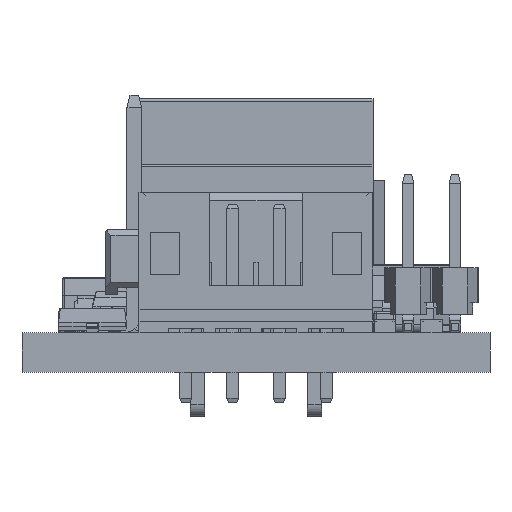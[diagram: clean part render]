
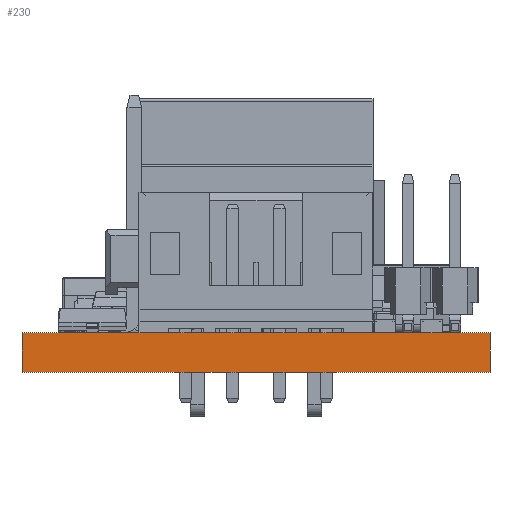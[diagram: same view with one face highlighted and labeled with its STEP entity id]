
A CAD part, front view. The second image highlights one B-rep face of the part: STEP entity #230.
In plain terms, the highlighted planar face has unit normal (0, -1, 0).
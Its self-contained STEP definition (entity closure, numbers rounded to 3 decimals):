
#132 = EDGE_CURVE('',#133,#135,#137,.T.);
#133 = VERTEX_POINT('',#134);
#134 = CARTESIAN_POINT('',(0.,0.,0.));
#135 = VERTEX_POINT('',#136);
#136 = CARTESIAN_POINT('',(0.,0.,1.691));
#137 = LINE('',#138,#139);
#138 = CARTESIAN_POINT('',(0.,0.,0.));
#139 = VECTOR('',#140,1.);
#140 = DIRECTION('',(0.,0.,1.));
#205 = VERTEX_POINT('',#206);
#206 = CARTESIAN_POINT('',(20.,0.,1.691));
#212 = EDGE_CURVE('',#213,#205,#215,.T.);
#213 = VERTEX_POINT('',#214);
#214 = CARTESIAN_POINT('',(20.,0.,0.));
#215 = LINE('',#216,#217);
#216 = CARTESIAN_POINT('',(20.,0.,0.));
#217 = VECTOR('',#218,1.);
#218 = DIRECTION('',(0.,0.,1.));
#230 = ADVANCED_FACE('',(#231),#247,.T.);
#231 = FACE_BOUND('',#232,.T.);
#232 = EDGE_LOOP('',(#233,#234,#240,#241));
#233 = ORIENTED_EDGE('',*,*,#212,.T.);
#234 = ORIENTED_EDGE('',*,*,#235,.T.);
#235 = EDGE_CURVE('',#205,#135,#236,.T.);
#236 = LINE('',#237,#238);
#237 = CARTESIAN_POINT('',(20.,0.,1.691));
#238 = VECTOR('',#239,1.);
#239 = DIRECTION('',(-1.,0.,0.));
#240 = ORIENTED_EDGE('',*,*,#132,.F.);
#241 = ORIENTED_EDGE('',*,*,#242,.F.);
#242 = EDGE_CURVE('',#213,#133,#243,.T.);
#243 = LINE('',#244,#245);
#244 = CARTESIAN_POINT('',(20.,0.,0.));
#245 = VECTOR('',#246,1.);
#246 = DIRECTION('',(-1.,0.,0.));
#247 = PLANE('',#248);
#248 = AXIS2_PLACEMENT_3D('',#249,#250,#251);
#249 = CARTESIAN_POINT('',(20.,0.,0.));
#250 = DIRECTION('',(0.,-1.,0.));
#251 = DIRECTION('',(-1.,0.,0.));
